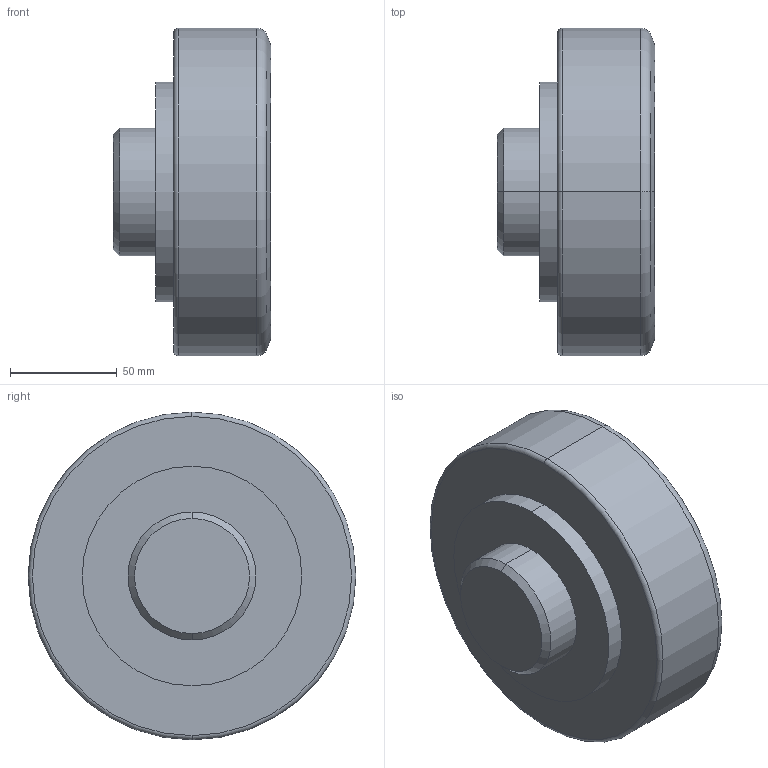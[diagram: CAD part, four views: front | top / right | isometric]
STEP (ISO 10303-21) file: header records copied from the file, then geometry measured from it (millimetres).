
FILE_DESCRIPTION (( 'STEP AP214' ), '1' );
FILE_NAME ('3D2.1643-PR.STEP', '2013-12-18T06:10:51', ( 'usuario' ), ( 'Hewlett-Packard Company' ), 'SwSTEP 2.0', 'SolidWorks 2017', '' );
FILE_SCHEMA (( 'AUTOMOTIVE_DESIGN' ));
Length unit declared in the file: millimetre
Products named in the file (1): 3D2.1643-PR
Bounding box: 74 x 153.8 x 153.8 mm (x, y, z)
Volume: 964617.1 mm3; surface area: 63254.3 mm2
Topology: 1 solids, 1 shells, 18 faces, 34 edges, 20 vertices
Faces by surface type: cylinder 6, cone 4, torus 4, plane 4
Entity records: 492 total; most frequent: DIRECTION 96, CARTESIAN_POINT 73, ORIENTED_EDGE 68, AXIS2_PLACEMENT_3D 43, EDGE_CURVE 34, CIRCLE 24, VERTEX_POINT 20, EDGE_LOOP 20
